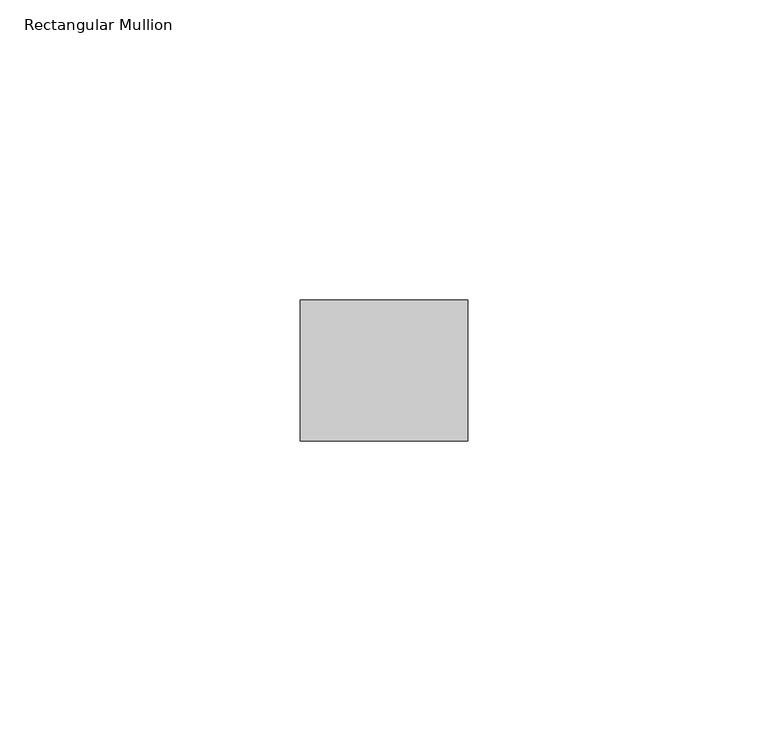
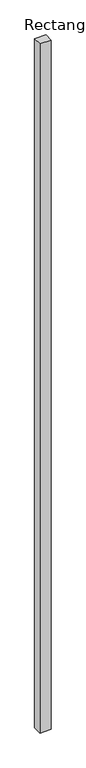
"""IFC4 building model written with IfcOpenShell, lengths in millimetres: member geometry, Rectangular Mullion : Lite Scale Glasing - Base Trim."""

from ifc_helpers import new_model, si_unit, frame, origin, place, context, project, spatial, polyline, outline, extrude, source, transform, mapped, element, save


def rectangular_mullion_99bb5b20(model_context):
    return source(origin(), model_context, "Body", "SweptSolid", [
        extrude(outline(polyline([(0.0, -11.7474999), (-27.94, -11.7474999), (-27.94, 11.7474999), (0.0, 11.7474999), (0.0, -11.7474999)])), frame((0.0, 0.0, -1828.8), z_axis=(0.0, 0.0, 1.0), x_axis=(1.0, 0.0, 0.0)), (0.0, 0.0, 1.0), 1828.8),
    ])


if __name__ == "__main__":
    model = new_model("IFC4")
    model_context = context("Model", 3, world=origin())
    ifc_project = project(units=[si_unit("LENGTHUNIT", "METRE", prefix="MILLI")], contexts=[model_context])
    site = spatial("IfcSite", under=ifc_project)
    building = spatial("IfcBuilding", under=site)
    placement = place(None, origin())
    rectangular_mullion_shape = rectangular_mullion_99bb5b20(model_context)
    element("IfcMember", 1, ObjectType="Rectangular Mullion : Lite Scale Glasing - Base Trim", at=placement, inside=building, context=model_context, shape_type="MappedRepresentation", body=[
        mapped(rectangular_mullion_shape, transform((0.0, 0.0, 0.0), x_axis=(1.0, 0.0, 0.0), y_axis=(0.0, 1.0, 0.0), z_axis=(0.0, 0.0, 1.0))),
    ])
    save(model, "model.ifc")
